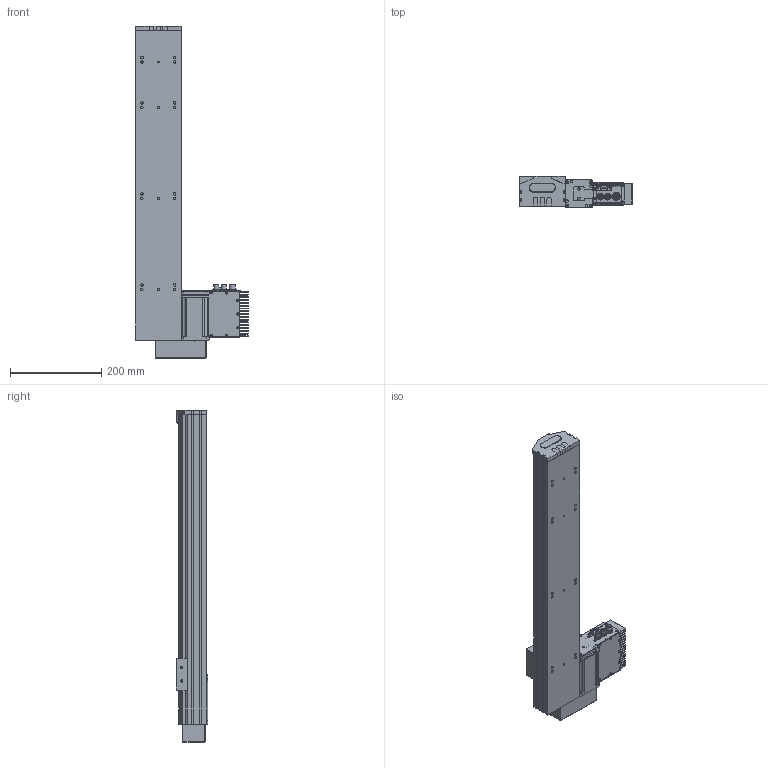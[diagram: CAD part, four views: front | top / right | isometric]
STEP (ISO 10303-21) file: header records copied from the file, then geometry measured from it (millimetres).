
FILE_DESCRIPTION (( 'STEP AP203' ), '1' );
FILE_NAME ('S10 TSN BR S500.STEP', '2012-08-31T13:50:24', ( 'Conseil Régional Haute-Normandie' ), ( 'Conseil Régional Haute-Normandie' ), 'SwSTEP 2.0', 'SolidWorks 2010', '' );
FILE_SCHEMA (( 'CONFIG_CONTROL_DESIGN' ));
Length unit declared in the file: millimetre
Products named in the file (25): Colonnette ronde_3; T_X2_00F4_X0_le Arri_X2_00E8_X0_re_5; T_X2_00F4_X0_le lat_X2_00E9_X0_rale_5; Vis TF 3 torkx_1_1; piece_plastique remplie_Default; embout_modifié; remplir_Default; Pièce2_Default; BU45 Carte d''axe A11_5; Colonnette_3; Moteur 60BLDC90A_3; Sub D 9cts 90_X2_00B_X0__3; axe687; Radiateur profil_X2_00E9_X0_ 100x25_3; palette tbn; renvoi LH_Default; Vis TF 3 torkx; S10 TSN BR S500; Assem1_7; T_X2_00F4_X0_le contre le moteur_5; BU41 Carte Alimentation P05_3; Couvercle_3; T_X2_00F4_X0_le fond_3; Connecteur rond D10 3cts_5; Connecteur rond D12 4cts_5
Assembly tree (55 placements, depth 3):
  S10 TSN BR S500
    Vis TF 3 torkx  x7
    Assem1_7
      Colonnette ronde_3
      Vis TF 3 torkx_1_1  x21
      T_X2_00F4_X0_le fond_3
      Colonnette_3  x2
      Connecteur rond D12 4cts_5
      T_X2_00F4_X0_le contre le moteur_5
      Couvercle_3
      Connecteur rond D10 3cts_5  x2
      Sub D 9cts 90_X2_00B_X0__3
      BU45 Carte d''axe A11_5
      T_X2_00F4_X0_le Arri_X2_00E8_X0_re_5
      T_X2_00F4_X0_le lat_X2_00E9_X0_rale_5  x2
      Moteur 60BLDC90A_3
      Radiateur profil_X2_00E9_X0_ 100x25_3
      BU41 Carte Alimentation P05_3
    palette tbn
    piece_plastique remplie_Default
      remplir_Default  x3
      embout_modifié
      Pièce2_Default
    axe687
    renvoi LH_Default
Bounding box: 248 x 68.64 x 729.5 mm (x, y, z)
Volume: 4254898.2 mm3; surface area: 600323.1 mm2
Topology: 53 solids, 53 shells, 1962 faces, 4992 edges, 3254 vertices
Faces by surface type: plane 926, cylinder 873, cone 156, bspline 4, torus 3
Entity records: 38527 total; most frequent: CARTESIAN_POINT 6508, DIRECTION 6263, ORIENTED_EDGE 5692, EDGE_CURVE 2846, AXIS2_PLACEMENT_3D 2298, VERTEX_POINT 1866, VECTOR 1667, LINE 1667
